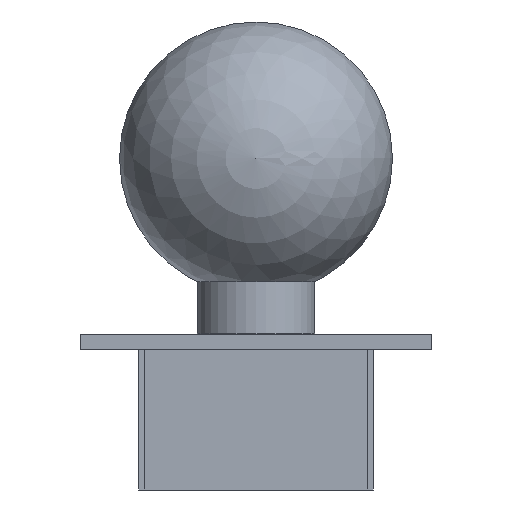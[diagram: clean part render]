
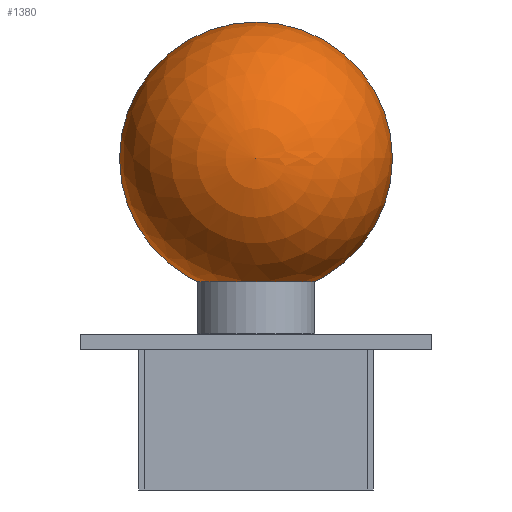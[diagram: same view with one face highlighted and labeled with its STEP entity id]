
A CAD part, left-side view. The second image highlights one B-rep face of the part: STEP entity #1380.
In plain terms, the highlighted spherical face has radius 35 mm.
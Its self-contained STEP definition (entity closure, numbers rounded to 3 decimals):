
#28=SPHERICAL_SURFACE('',#1492,35.);
#90=FACE_OUTER_BOUND('',#182,.T.);
#182=EDGE_LOOP('',(#942,#943,#944,#945));
#554=CIRCLE('',#1493,35.);
#555=CIRCLE('',#1494,35.);
#556=CIRCLE('',#1495,35.);
#610=VERTEX_POINT('',#2090);
#611=VERTEX_POINT('',#2091);
#612=VERTEX_POINT('',#2094);
#742=EDGE_CURVE('',#610,#611,#554,.T.);
#743=EDGE_CURVE('',#611,#610,#555,.T.);
#744=EDGE_CURVE('',#612,#611,#556,.T.);
#942=ORIENTED_EDGE('',*,*,#742,.F.);
#943=ORIENTED_EDGE('',*,*,#743,.F.);
#944=ORIENTED_EDGE('',*,*,#744,.F.);
#945=ORIENTED_EDGE('',*,*,#744,.T.);
#1380=ADVANCED_FACE('',(#90),#28,.T.);
#1492=AXIS2_PLACEMENT_3D('',#2089,#1659,#1660);
#1493=AXIS2_PLACEMENT_3D('',#2092,#1661,#1662);
#1494=AXIS2_PLACEMENT_3D('',#2093,#1663,#1664);
#1495=AXIS2_PLACEMENT_3D('',#2095,#1665,#1666);
#1659=DIRECTION('center_axis',(1.,0.,0.));
#1660=DIRECTION('ref_axis',(0.,-1.,0.));
#1661=DIRECTION('center_axis',(-1.,0.,0.));
#1662=DIRECTION('ref_axis',(0.,-0.588,0.809));
#1663=DIRECTION('center_axis',(-1.,0.,0.));
#1664=DIRECTION('ref_axis',(0.,-0.588,0.809));
#1665=DIRECTION('center_axis',(0.,0.,1.));
#1666=DIRECTION('ref_axis',(0.,1.,0.));
#2089=CARTESIAN_POINT('Origin',(240.,0.,85.));
#2090=CARTESIAN_POINT('',(240.,0.,120.));
#2091=CARTESIAN_POINT('',(240.,35.,85.));
#2092=CARTESIAN_POINT('Origin',(240.,0.,
85.));
#2093=CARTESIAN_POINT('Origin',(240.,0.,
85.));
#2094=CARTESIAN_POINT('',(275.,0.,85.));
#2095=CARTESIAN_POINT('Origin',(240.,0.,85.));
